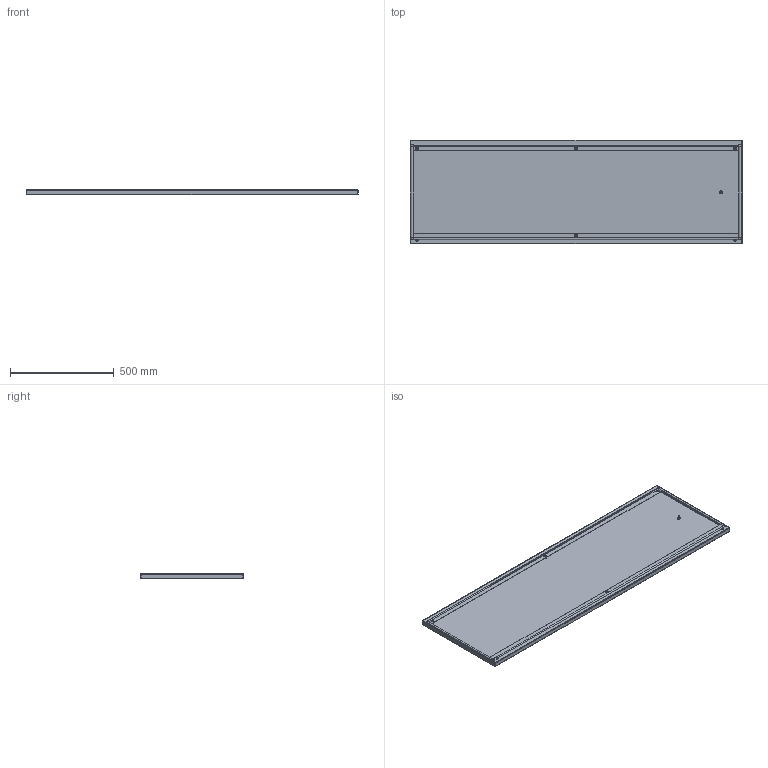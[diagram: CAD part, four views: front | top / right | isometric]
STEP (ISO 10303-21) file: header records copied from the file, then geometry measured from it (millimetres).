
FILE_DESCRIPTION (( 'STEP AP203' ), '1' );
FILE_NAME ('R 160.50 C Ïàíåëü êîíöåâàÿ íèæíåé ÷àñòè.STEP', '2013-01-14T08:31:10', ( 'Àëåêñàíäð' ), ( 'Ïðîâåíòî' ), 'SwSTEP 2.0', 'SolidWorks 2012', '' );
FILE_SCHEMA (( 'CONFIG_CONTROL_DESIGN' ));
Length unit declared in the file: millimetre
Products named in the file (1): R 160.50 C Ïàíåëü êîíöåâàÿ íèæíåé ÷àñòè
Bounding box: 1600 x 500 x 27 mm (x, y, z)
Volume: 1682773.9 mm3; surface area: 2135043 mm2
Topology: 3 solids, 3 shells, 199 faces, 443 edges, 272 vertices
Faces by surface type: cylinder 83, plane 54, torus 36, cone 18, sphere 8
Entity records: 5706 total; most frequent: DIRECTION 1105, CARTESIAN_POINT 989, ORIENTED_EDGE 870, AXIS2_PLACEMENT_3D 478, EDGE_CURVE 435, CIRCLE 278, VERTEX_POINT 272, EDGE_LOOP 245
